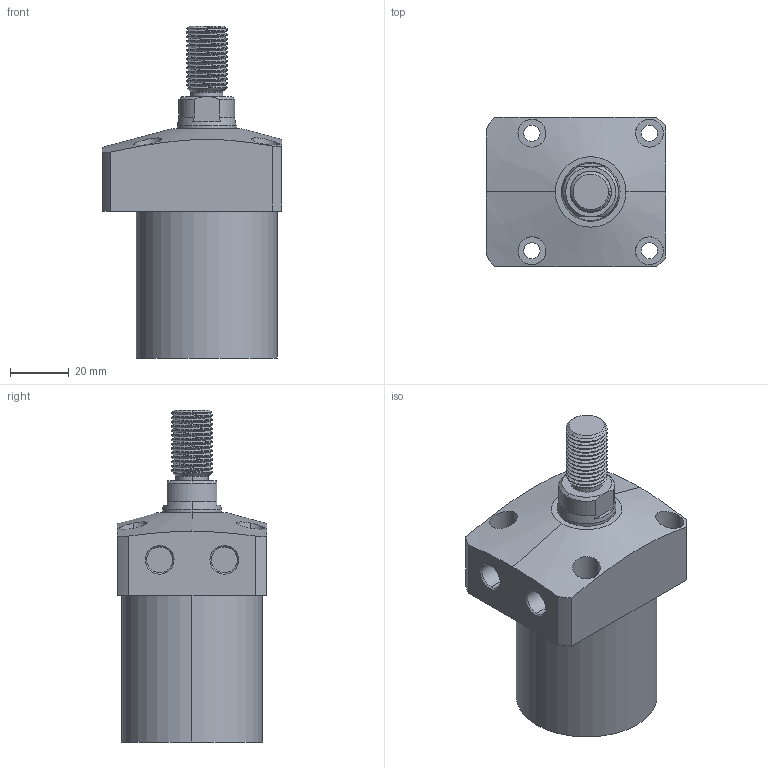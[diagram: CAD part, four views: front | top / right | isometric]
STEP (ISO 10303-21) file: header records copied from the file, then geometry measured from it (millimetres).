
FILE_DESCRIPTION (( 'STEP AP203' ), '1' );
FILE_NAME ('CLL-048CT-040.STEP', '2020-01-10T01:13:04', ( '' ), ( '' ), 'SwSTEP 2.0', 'SolidWorks 2015', '' );
FILE_SCHEMA (( 'CONFIG_CONTROL_DESIGN' ));
Length unit declared in the file: millimetre
Products named in the file (1): CLL-048CT-040
Bounding box: 61 x 51 x 113 mm (x, y, z)
Volume: 169483.8 mm3; surface area: 23526.7 mm2
Topology: 1 solids, 1 shells, 105 faces, 262 edges, 170 vertices
Faces by surface type: cylinder 63, plane 24, cone 16, bspline 2
Entity records: 5134 total; most frequent: CARTESIAN_POINT 2690, ORIENTED_EDGE 524, DIRECTION 464, EDGE_CURVE 262, AXIS2_PLACEMENT_3D 184, VERTEX_POINT 170, EDGE_LOOP 124, ADVANCED_FACE 105
